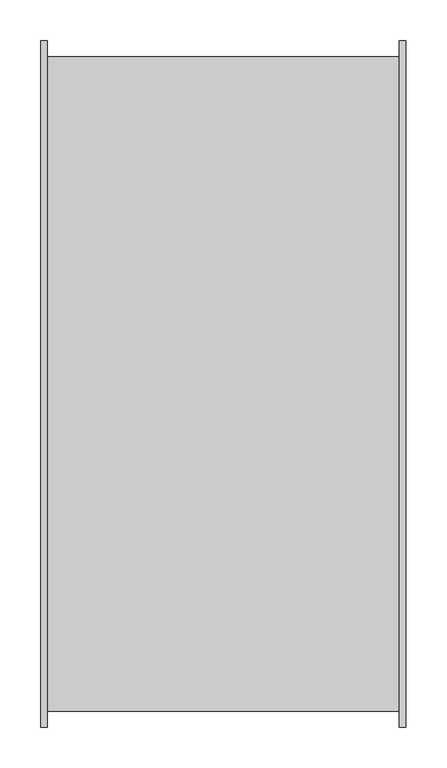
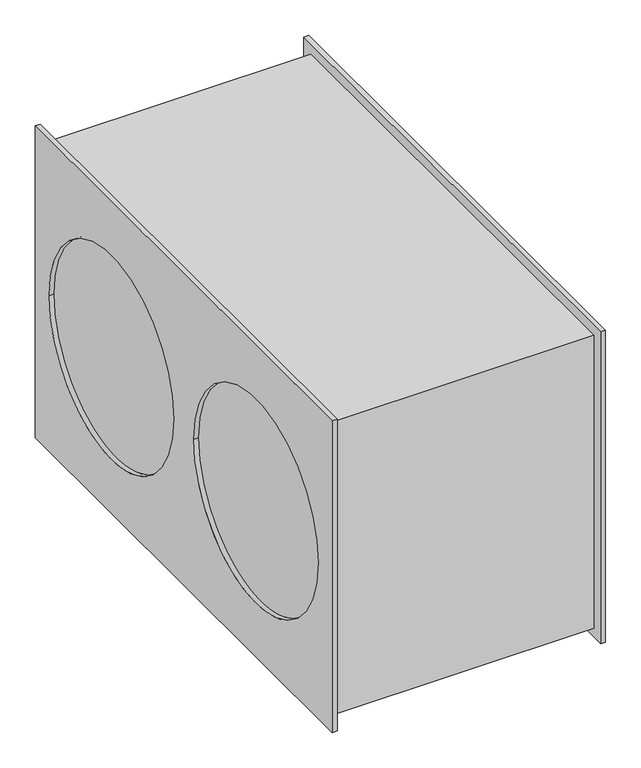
"""IFC4 building model written with IfcOpenShell, lengths in millimetres: unitary equipment geometry, VE-Wentylator-ParaForma-Harmann-JETTEC_REC-Nawiewny : 080/50/10000S."""

from ifc_helpers import new_model, si_unit, frame, origin, place, context, project, spatial, polyline, circle_curve, source, transform, mapped, element, save
from ifc_brep_helpers import plane_surface, revolved_surface, advanced_brep


def unitary_equipment_2dbf70ae(model_context):
    return source(origin(), model_context, "Body", "AdvancedBrep", [
        advanced_brep(
        [(215.0, -419.3, -269.0), (215.0, -419.3, 269.0), (215.0, 419.3, 269.0), (215.0, 419.3, -269.0), (215.0, -400.0, 251.0), (215.0, -400.0, -254.3), (215.0, 400.0, -254.3), (215.0, 400.0, 251.0), (223.0, -419.3, -269.0), (223.0, 419.3, -269.0), (223.0, 419.3, 269.0), (223.0, -419.3, 269.0), (223.0, -380.3, 0.0), (223.0, -28.3, 0.0), (223.0, 28.3, 0.0), (223.0, 380.3, 0.0), (215.0, -28.3, 0.0), (215.0, -380.3, 0.0), (215.0, 380.3, 0.0), (215.0, 28.3, 0.0), (-215.0, -380.3, 0.0), (-215.0, -28.3, 0.0), (-215.0, 28.3, 0.0), (-215.0, 380.3, 0.0), (-215.0, -400.0, -254.3), (-215.0, -400.0, 251.0), (-215.0, 400.0, 251.0), (-215.0, 400.0, -254.3), (-223.0, -419.3, -269.0), (-223.0, -419.3, 269.0), (-223.0, 419.3, 269.0), (-223.0, 419.3, -269.0), (-223.0, -28.3, 0.0), (-223.0, -380.3, 0.0), (-223.0, 380.3, 0.0), (-223.0, 28.3, 0.0), (-215.0, -419.3, -269.0), (-215.0, 419.3, -269.0), (-215.0, 419.3, 269.0), (-215.0, -419.3, 269.0)],
        [
            (0, 1),
            (1, 2),
            (2, 3),
            (3, 0),
            (4, 5),
            (5, 6),
            (6, 7),
            (7, 4),
            (8, 9),
            (9, 10),
            (10, 11),
            (11, 8),
            (12, 13, circle_curve(frame((223.0, -204.3, 0.0), z_axis=(-1.0, 0.0, 0.0), x_axis=(0.0, 1.0, 0.0)), 176.0)),
            (13, 12, circle_curve(frame((223.0, -204.3, 0.0), z_axis=(-1.0, 0.0, 0.0), x_axis=(0.0, 1.0, 0.0)), 176.0)),
            (14, 15, circle_curve(frame((223.0, 204.3, 0.0), z_axis=(-1.0, 0.0, 0.0), x_axis=(0.0, 1.0, 0.0)), 176.0)),
            (15, 14, circle_curve(frame((223.0, 204.3, 0.0), z_axis=(-1.0, 0.0, 0.0), x_axis=(0.0, 1.0, 0.0)), 176.0)),
            (0, 8),
            (11, 1),
            (10, 2),
            (9, 3),
            (16, 13),
            (12, 17),
            (17, 16, circle_curve(frame((215.0, -204.3, 0.0), z_axis=(-1.0, 0.0, 0.0), x_axis=(0.0, 1.0, 0.0)), 176.0)),
            (16, 17, circle_curve(frame((215.0, -204.3, 0.0), z_axis=(-1.0, 0.0, 0.0), x_axis=(0.0, 1.0, 0.0)), 176.0)),
            (18, 15),
            (14, 19),
            (19, 18, circle_curve(frame((215.0, 204.3, 0.0), z_axis=(-1.0, 0.0, 0.0), x_axis=(0.0, 1.0, 0.0)), 176.0)),
            (18, 19, circle_curve(frame((215.0, 204.3, 0.0), z_axis=(-1.0, 0.0, 0.0), x_axis=(0.0, 1.0, 0.0)), 176.0)),
            (20, 21, circle_curve(frame((-215.0, -204.3, 0.0), z_axis=(-1.0, 0.0, 0.0), x_axis=(0.0, 1.0, 0.0)), 176.0)),
            (21, 20, circle_curve(frame((-215.0, -204.3, 0.0), z_axis=(-1.0, 0.0, 0.0), x_axis=(0.0, 1.0, 0.0)), 176.0)),
            (22, 23, circle_curve(frame((-215.0, 204.3, 0.0), z_axis=(-1.0, 0.0, 0.0), x_axis=(0.0, 1.0, 0.0)), 176.0)),
            (23, 22, circle_curve(frame((-215.0, 204.3, 0.0), z_axis=(-1.0, 0.0, 0.0), x_axis=(0.0, 1.0, 0.0)), 176.0)),
            (24, 5),
            (4, 25),
            (25, 24),
            (7, 26),
            (26, 25),
            (6, 27),
            (27, 26),
            (24, 27),
            (28, 29),
            (29, 30),
            (30, 31),
            (31, 28),
            (32, 33, circle_curve(frame((-223.0, -204.3, 0.0), z_axis=(1.0, 0.0, 0.0), x_axis=(0.0, 1.0, 0.0)), 176.0)),
            (33, 32, circle_curve(frame((-223.0, -204.3, 0.0), z_axis=(1.0, 0.0, 0.0), x_axis=(0.0, 1.0, 0.0)), 176.0)),
            (34, 35, circle_curve(frame((-223.0, 204.3, 0.0), z_axis=(1.0, 0.0, 0.0), x_axis=(0.0, 1.0, 0.0)), 176.0)),
            (35, 34, circle_curve(frame((-223.0, 204.3, 0.0), z_axis=(1.0, 0.0, 0.0), x_axis=(0.0, 1.0, 0.0)), 176.0)),
            (36, 37),
            (37, 38),
            (38, 39),
            (39, 36),
            (28, 36),
            (39, 29),
            (38, 30),
            (37, 31),
            (32, 21),
            (20, 33),
            (34, 23),
            (22, 35),
        ],
        [
            plane_surface(frame((215.0, 0.0, 0.0), z_axis=(-1.0, 0.0, 0.0), x_axis=(0.0, 0.0, 1.0))),
            plane_surface(frame((223.0, 0.0, 0.0), z_axis=(1.0, 0.0, 0.0), x_axis=(0.0, 0.0, 1.0))),
            plane_surface(frame((215.0, -419.3, -269.0), z_axis=(0.0, -1.0, 0.0), x_axis=(1.0, 0.0, 0.0))),
            plane_surface(frame((215.0, -419.3, 269.0), z_axis=(0.0, 0.0, 1.0), x_axis=(1.0, 0.0, 0.0))),
            plane_surface(frame((215.0, 419.3, 269.0), z_axis=(0.0, 1.0, 0.0), x_axis=(1.0, 0.0, 0.0))),
            plane_surface(frame((215.0, 419.3, -269.0), z_axis=(0.0, 0.0, -1.0), x_axis=(1.0, 0.0, 0.0))),
            revolved_surface(polyline([(215.0, -28.30000000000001, 0.0), (223.0, -28.30000000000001, 0.0)]), (215.0, -204.3, 0.0), (-1.0, 0.0, 0.0)),
            revolved_surface(polyline([(215.0, 380.3, 0.0), (223.0, 380.3, 0.0)]), (215.0, 204.3, 0.0), (-1.0, 0.0, 0.0)),
            plane_surface(frame((-215.0, 0.0, 0.0), z_axis=(-1.0, 0.0, 0.0), x_axis=(0.0, 0.0, 1.0))),
            plane_surface(frame((215.0, 0.0, 0.0), z_axis=(1.0, 0.0, 0.0), x_axis=(0.0, 0.0, 1.0))),
            plane_surface(frame((-215.0, -400.0, -254.3), z_axis=(0.0, -1.0, 0.0), x_axis=(1.0, 0.0, 0.0))),
            plane_surface(frame((-215.0, -400.0, 251.0), z_axis=(0.0, 0.0, 1.0), x_axis=(1.0, 0.0, 0.0))),
            plane_surface(frame((-215.0, 400.0, 251.0), z_axis=(0.0, 1.0, 0.0), x_axis=(1.0, 0.0, 0.0))),
            plane_surface(frame((-215.0, 400.0, -254.3), z_axis=(0.0, 0.0, -1.0), x_axis=(1.0, 0.0, 0.0))),
            plane_surface(frame((-223.0, 0.0, 0.0), z_axis=(-1.0, 0.0, 0.0), x_axis=(0.0, 0.0, 1.0))),
            plane_surface(frame((-215.0, 0.0, 0.0), z_axis=(1.0, 0.0, 0.0), x_axis=(0.0, 0.0, 1.0))),
            plane_surface(frame((-223.0, -419.3, -269.0), z_axis=(0.0, -1.0, 0.0), x_axis=(1.0, 0.0, 0.0))),
            plane_surface(frame((-223.0, -419.3, 269.0), z_axis=(0.0, 0.0, 1.0), x_axis=(1.0, 0.0, 0.0))),
            plane_surface(frame((-223.0, 419.3, 269.0), z_axis=(0.0, 1.0, 0.0), x_axis=(1.0, 0.0, 0.0))),
            plane_surface(frame((-223.0, 419.3, -269.0), z_axis=(0.0, 0.0, -1.0), x_axis=(1.0, 0.0, 0.0))),
            revolved_surface(polyline([(-223.0, -28.30000000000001, 0.0), (-215.0, -28.30000000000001, 0.0)]), (-223.0, -204.3, 0.0), (-1.0, 0.0, 0.0)),
            revolved_surface(polyline([(-223.0, 380.3, 0.0), (-215.0, 380.3, 0.0)]), (-223.0, 204.3, 0.0), (-1.0, 0.0, 0.0)),
        ],
        [
            (0, [[1, 2, 3, 4], [5, 6, 7, 8]]),
            (1, [[9, 10, 11, 12], [13, 14], [15, 16]]),
            (2, [[-1, 17, -12, 18]]),
            (3, [[-2, -18, -11, 19]]),
            (4, [[-3, -19, -10, 20]]),
            (5, [[-4, -20, -9, -17]]),
            (6, [[21, -13, 22, 23]]),
            (6, [[-21, 24, -22, -14]]),
            (7, [[25, -15, 26, 27]]),
            (7, [[-25, 28, -26, -16]]),
            (8, [[29, 30]]),
            (8, [[31, 32]]),
            (9, [[-23, -24]]),
            (9, [[-27, -28]]),
            (10, [[33, -5, 34, 35]]),
            (11, [[-34, -8, 36, 37]]),
            (12, [[-36, -7, 38, 39]]),
            (13, [[-33, 40, -38, -6]]),
            (14, [[41, 42, 43, 44], [45, 46], [47, 48]]),
            (15, [[49, 50, 51, 52], [-35, -37, -39, -40]]),
            (16, [[-41, 53, -52, 54]]),
            (17, [[-42, -54, -51, 55]]),
            (18, [[-43, -55, -50, 56]]),
            (19, [[-44, -56, -49, -53]]),
            (20, [[57, -29, 58, -45]]),
            (20, [[-57, -46, -58, -30]]),
            (21, [[59, -31, 60, -47]]),
            (21, [[-59, -48, -60, -32]]),
        ],
    ),
    ])


if __name__ == "__main__":
    model = new_model("IFC4")
    model_context = context("Model", 3, world=origin())
    ifc_project = project(units=[si_unit("LENGTHUNIT", "METRE", prefix="MILLI")], contexts=[model_context])
    site = spatial("IfcSite", under=ifc_project)
    building = spatial("IfcBuilding", under=site)
    placement = place(None, origin())
    unitary_equipment_shape = unitary_equipment_2dbf70ae(model_context)
    element("IfcUnitaryEquipment", 1, ObjectType="VE-Wentylator-ParaForma-Harmann-JETTEC_REC-Nawiewny : 080/50/10000S", at=placement, inside=building, context=model_context, shape_type="MappedRepresentation", body=[
        mapped(unitary_equipment_shape, transform((0.0, 0.0, 0.0), x_axis=(1.0, 0.0, 0.0), y_axis=(0.0, 1.0, 0.0), z_axis=(0.0, 0.0, 1.0))),
    ])
    save(model, "model.ifc")
